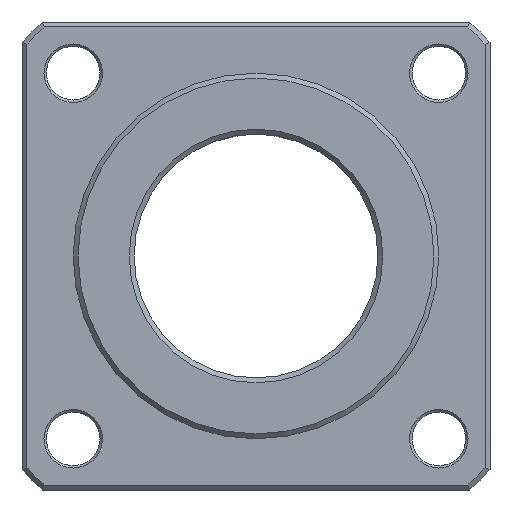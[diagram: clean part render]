
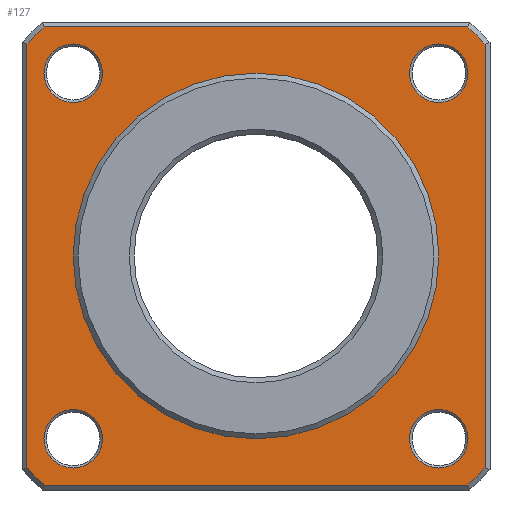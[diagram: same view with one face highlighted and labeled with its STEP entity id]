
A CAD part, left-side view. The second image highlights one B-rep face of the part: STEP entity #127.
In plain terms, the highlighted planar face has unit normal (-1, 0, 0).
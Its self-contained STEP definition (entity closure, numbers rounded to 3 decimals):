
#127=ADVANCED_FACE('',(#199,#200,#201,#202,#203,#204),#205,.F.);
#199=FACE_BOUND('',#363,.T.);
#200=FACE_BOUND('',#364,.T.);
#201=FACE_BOUND('',#365,.T.);
#202=FACE_BOUND('',#366,.T.);
#203=FACE_BOUND('',#367,.T.);
#204=FACE_OUTER_BOUND('',#368,.T.);
#205=PLANE('',#369);
#363=EDGE_LOOP('',(#535));
#364=EDGE_LOOP('',(#536));
#365=EDGE_LOOP('',(#537));
#366=EDGE_LOOP('',(#538));
#367=EDGE_LOOP('',(#539));
#368=EDGE_LOOP('',(#540,#541,#542,#543,#544,#545,#546,#547));
#369=AXIS2_PLACEMENT_3D('',#548,#549,#550);
#535=ORIENTED_EDGE('',*,*,#924,.T.);
#536=ORIENTED_EDGE('',*,*,#925,.T.);
#537=ORIENTED_EDGE('',*,*,#926,.T.);
#538=ORIENTED_EDGE('',*,*,#927,.T.);
#539=ORIENTED_EDGE('',*,*,#923,.F.);
#540=ORIENTED_EDGE('',*,*,#928,.T.);
#541=ORIENTED_EDGE('',*,*,#929,.T.);
#542=ORIENTED_EDGE('',*,*,#930,.T.);
#543=ORIENTED_EDGE('',*,*,#931,.T.);
#544=ORIENTED_EDGE('',*,*,#932,.T.);
#545=ORIENTED_EDGE('',*,*,#933,.T.);
#546=ORIENTED_EDGE('',*,*,#934,.T.);
#547=ORIENTED_EDGE('',*,*,#935,.T.);
#548=CARTESIAN_POINT('',(0.,65.0,0.0));
#549=DIRECTION('',(1.0,0.0,0.0));
#550=DIRECTION('',(0.0,0.0,-1.0));
#923=EDGE_CURVE('',#1038,#1038,#1039,.T.);
#924=EDGE_CURVE('',#1040,#1040,#1041,.T.);
#925=EDGE_CURVE('',#1042,#1042,#1043,.T.);
#926=EDGE_CURVE('',#1044,#1044,#1045,.T.);
#927=EDGE_CURVE('',#1046,#1046,#1047,.T.);
#928=EDGE_CURVE('',#1048,#1049,#1050,.F.);
#929=EDGE_CURVE('',#1049,#1051,#1052,.T.);
#930=EDGE_CURVE('',#1051,#1053,#1054,.F.);
#931=EDGE_CURVE('',#1053,#1055,#1056,.T.);
#932=EDGE_CURVE('',#1055,#1057,#1058,.F.);
#933=EDGE_CURVE('',#1057,#1059,#1060,.T.);
#934=EDGE_CURVE('',#1059,#1061,#1062,.F.);
#935=EDGE_CURVE('',#1061,#1048,#1063,.T.);
#1038=VERTEX_POINT('',#1350);
#1039=CIRCLE('',#1351,37.5);
#1040=VERTEX_POINT('',#1352);
#1041=CIRCLE('',#1353,6.0);
#1042=VERTEX_POINT('',#1354);
#1043=CIRCLE('',#1355,6.0);
#1044=VERTEX_POINT('',#1356);
#1045=CIRCLE('',#1357,6.0);
#1046=VERTEX_POINT('',#1358);
#1047=CIRCLE('',#1359,6.0);
#1048=VERTEX_POINT('',#1360);
#1049=VERTEX_POINT('',#1361);
#1050=CIRCLE('',#1362,64.0);
#1051=VERTEX_POINT('',#1363);
#1052=LINE('',#1364,#1365);
#1053=VERTEX_POINT('',#1366);
#1054=CIRCLE('',#1367,64.0);
#1055=VERTEX_POINT('',#1368);
#1056=LINE('',#1369,#1370);
#1057=VERTEX_POINT('',#1371);
#1058=CIRCLE('',#1372,64.0);
#1059=VERTEX_POINT('',#1373);
#1060=LINE('',#1374,#1375);
#1061=VERTEX_POINT('',#1376);
#1062=CIRCLE('',#1377,64.0);
#1063=LINE('',#1378,#1379);
#1350=CARTESIAN_POINT('',(0.0,0.0,37.5));
#1351=AXIS2_PLACEMENT_3D('',#1627,#1628,#1629);
#1352=CARTESIAN_POINT('',(0.,-37.5,-43.5));
#1353=AXIS2_PLACEMENT_3D('',#1630,#1631,#1632);
#1354=CARTESIAN_POINT('',(0.,37.5,-43.5));
#1355=AXIS2_PLACEMENT_3D('',#1633,#1634,#1635);
#1356=CARTESIAN_POINT('',(0.,37.5,31.5));
#1357=AXIS2_PLACEMENT_3D('',#1636,#1637,#1638);
#1358=CARTESIAN_POINT('',(0.,-37.5,31.5));
#1359=AXIS2_PLACEMENT_3D('',#1639,#1640,#1641);
#1360=CARTESIAN_POINT('',(0.,-47.0,43.44));
#1361=CARTESIAN_POINT('',(0.,-43.44,47.0));
#1362=AXIS2_PLACEMENT_3D('',#1642,#1643,#1644);
#1363=CARTESIAN_POINT('',(0.,43.44,47.0));
#1364=CARTESIAN_POINT('',(0.,42.332,47.0));
#1365=VECTOR('',#1645,1.0);
#1366=CARTESIAN_POINT('',(0.,47.0,43.44));
#1367=AXIS2_PLACEMENT_3D('',#1646,#1647,#1648);
#1368=CARTESIAN_POINT('',(0.,47.0,-43.44));
#1369=CARTESIAN_POINT('',(0.,47.0,-42.332));
#1370=VECTOR('',#1649,1.0);
#1371=CARTESIAN_POINT('',(0.,43.44,-47.0));
#1372=AXIS2_PLACEMENT_3D('',#1650,#1651,#1652);
#1373=CARTESIAN_POINT('',(0.,-43.44,-47.0));
#1374=CARTESIAN_POINT('',(0.,-42.332,-47.0));
#1375=VECTOR('',#1653,1.0);
#1376=CARTESIAN_POINT('',(0.,-47.0,-43.44));
#1377=AXIS2_PLACEMENT_3D('',#1654,#1655,#1656);
#1378=CARTESIAN_POINT('',(0.,-47.0,42.332));
#1379=VECTOR('',#1657,1.0);
#1627=CARTESIAN_POINT('',(0.0,0.0,0.0));
#1628=DIRECTION('',(-1.0,0.0,0.0));
#1629=DIRECTION('',(0.0,0.0,1.0));
#1630=CARTESIAN_POINT('',(0.,-37.5,-37.5));
#1631=DIRECTION('',(1.0,0.0,0.0));
#1632=DIRECTION('',(0.0,0.0,-1.0));
#1633=CARTESIAN_POINT('',(0.,37.5,-37.5));
#1634=DIRECTION('',(1.0,0.0,0.0));
#1635=DIRECTION('',(0.0,0.0,-1.0));
#1636=CARTESIAN_POINT('',(0.,37.5,37.5));
#1637=DIRECTION('',(1.0,0.0,0.0));
#1638=DIRECTION('',(0.0,0.0,-1.0));
#1639=CARTESIAN_POINT('',(0.,-37.5,37.5));
#1640=DIRECTION('',(1.0,0.0,0.0));
#1641=DIRECTION('',(0.0,0.0,-1.0));
#1642=CARTESIAN_POINT('',(0.,0.0,0.0));
#1643=DIRECTION('',(1.0,0.0,0.0));
#1644=DIRECTION('',(0.0,0.0,-1.0));
#1645=DIRECTION('',(0.0,1.0,0.0));
#1646=CARTESIAN_POINT('',(0.,0.0,0.0));
#1647=DIRECTION('',(1.0,0.0,0.0));
#1648=DIRECTION('',(0.0,0.0,-1.0));
#1649=DIRECTION('',(0.0,0.0,-1.0));
#1650=CARTESIAN_POINT('',(0.,0.0,0.0));
#1651=DIRECTION('',(1.0,0.0,0.0));
#1652=DIRECTION('',(0.0,0.0,-1.0));
#1653=DIRECTION('',(0.0,-1.0,0.0));
#1654=CARTESIAN_POINT('',(0.,0.0,0.0));
#1655=DIRECTION('',(1.0,0.0,0.0));
#1656=DIRECTION('',(0.0,0.0,-1.0));
#1657=DIRECTION('',(0.0,0.0,1.0));
